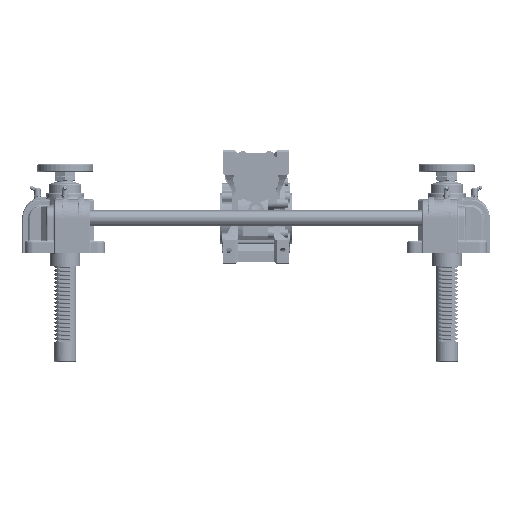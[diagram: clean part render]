
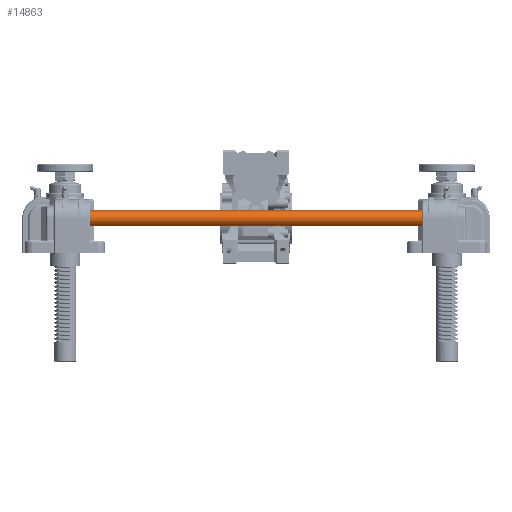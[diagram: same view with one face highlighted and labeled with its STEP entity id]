
A CAD part, left-side view. The second image highlights one B-rep face of the part: STEP entity #14863.
In plain terms, the highlighted cylindrical face has radius 12.5 mm (diameter 25 mm), a full revolution.
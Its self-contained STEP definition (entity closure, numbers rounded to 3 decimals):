
#14863=ADVANCED_FACE('',(#36601,#36602),#36603,.T.);
#36601=FACE_OUTER_BOUND('',#73965,.T.);
#36602=FACE_OUTER_BOUND('',#73966,.T.);
#36603=CYLINDRICAL_SURFACE('',#73967,12.5);
#73965=EDGE_LOOP('',(#158800));
#73966=EDGE_LOOP('',(#158801));
#73967=AXIS2_PLACEMENT_3D('',#158802,#158803,#158804);
#158800=ORIENTED_EDGE('',*,*,#195913,.T.);
#158801=ORIENTED_EDGE('',*,*,#195910,.T.);
#158802=CARTESIAN_POINT('',(0.0,0.0,50.0));
#158803=DIRECTION('',(0.0,0.0,-1.0));
#158804=DIRECTION('',(-1.0,0.0,0.0));
#195910=EDGE_CURVE('',#243334,#243334,#243335,.F.);
#195913=EDGE_CURVE('',#243340,#243340,#243341,.T.);
#243334=VERTEX_POINT('',#332542);
#243335=CIRCLE('',#332543,12.5);
#243340=VERTEX_POINT('',#332548);
#243341=CIRCLE('',#332549,12.5);
#332542=CARTESIAN_POINT('',(12.5,0.0,49.0));
#332543=AXIS2_PLACEMENT_3D('',#372562,#372563,#372564);
#332548=CARTESIAN_POINT('',(12.5,0.0,-591.0));
#332549=AXIS2_PLACEMENT_3D('',#372571,#372572,#372573);
#372562=CARTESIAN_POINT('',(0.0,0.0,49.0));
#372563=DIRECTION('',(0.0,0.0,1.0));
#372564=DIRECTION('',(1.0,0.0,0.0));
#372571=CARTESIAN_POINT('',(0.0,0.0,-591.0));
#372572=DIRECTION('',(0.0,0.0,1.0));
#372573=DIRECTION('',(1.0,0.0,0.0));
